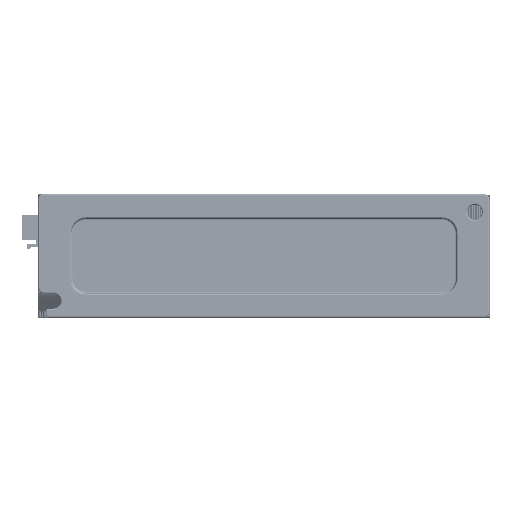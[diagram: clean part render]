
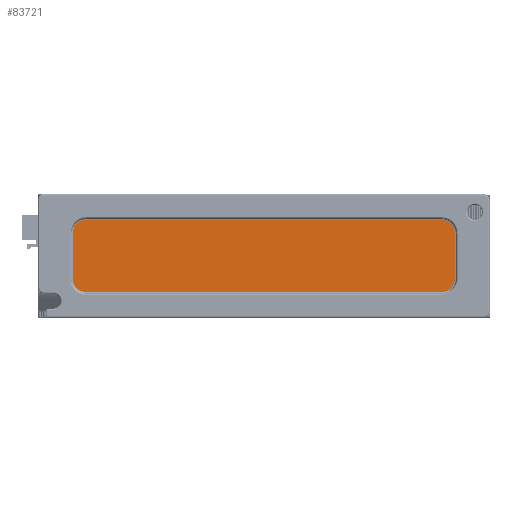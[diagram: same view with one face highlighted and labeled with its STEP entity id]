
A CAD part, top view. The second image highlights one B-rep face of the part: STEP entity #83721.
In plain terms, the highlighted planar face has unit normal (0, 0, 1).
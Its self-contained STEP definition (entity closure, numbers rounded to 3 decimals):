
#64155=CARTESIAN_POINT('',(-59.,43.,-1.5));
#64156=DIRECTION('',(0.,0.,-1.));
#64157=DIRECTION('',(-1.,0.,0.));
#64158=AXIS2_PLACEMENT_3D('',#64155,#64156,#64157);
#64160=DIRECTION('',(1.,0.,0.));
#64161=VECTOR('',#64160,118.);
#64162=CARTESIAN_POINT('',(-59.,47.5,-1.5));
#64163=LINE('',#64162,#64161);
#64164=CARTESIAN_POINT('',(59.,43.,-1.5));
#64165=DIRECTION('',(0.,0.,-1.));
#64166=DIRECTION('',(0.,1.,0.));
#64167=AXIS2_PLACEMENT_3D('',#64164,#64165,#64166);
#64169=DIRECTION('',(0.,-1.,0.));
#64170=VECTOR('',#64169,15.);
#64171=CARTESIAN_POINT('',(63.5,43.,-1.5));
#64172=LINE('',#64171,#64170);
#64173=CARTESIAN_POINT('',(59.,28.,-1.5));
#64174=DIRECTION('',(0.,0.,-1.));
#64175=DIRECTION('',(1.,0.,0.));
#64176=AXIS2_PLACEMENT_3D('',#64173,#64174,#64175);
#64178=DIRECTION('',(-1.,0.,0.));
#64179=VECTOR('',#64178,118.);
#64180=CARTESIAN_POINT('',(59.,23.5,-1.5));
#64181=LINE('',#64180,#64179);
#64182=CARTESIAN_POINT('',(-59.,28.,-1.5));
#64183=DIRECTION('',(0.,0.,-1.));
#64184=DIRECTION('',(0.,-1.,0.));
#64185=AXIS2_PLACEMENT_3D('',#64182,#64183,#64184);
#64187=DIRECTION('',(0.,1.,0.));
#64188=VECTOR('',#64187,15.);
#64189=CARTESIAN_POINT('',(-63.5,28.,-1.5));
#64190=LINE('',#64189,#64188);
#66985=CARTESIAN_POINT('',(-63.5,43.,-1.5));
#66986=CARTESIAN_POINT('',(-59.,47.5,-1.5));
#66987=VERTEX_POINT('',#66985);
#66988=VERTEX_POINT('',#66986);
#66993=CARTESIAN_POINT('',(59.,47.5,-1.5));
#66994=VERTEX_POINT('',#66993);
#66997=CARTESIAN_POINT('',(63.5,43.,-1.5));
#66998=VERTEX_POINT('',#66997);
#67001=CARTESIAN_POINT('',(63.5,28.,-1.5));
#67002=VERTEX_POINT('',#67001);
#67005=CARTESIAN_POINT('',(59.,23.5,-1.5));
#67006=VERTEX_POINT('',#67005);
#67009=CARTESIAN_POINT('',(-59.,23.5,-1.5));
#67010=VERTEX_POINT('',#67009);
#67013=CARTESIAN_POINT('',(-63.5,28.,-1.5));
#67014=VERTEX_POINT('',#67013);
#83699=CARTESIAN_POINT('',(0.,0.,-1.5));
#83700=DIRECTION('',(0.,0.,1.));
#83701=DIRECTION('',(1.,0.,0.));
#83702=AXIS2_PLACEMENT_3D('',#83699,#83700,#83701);
#83703=PLANE('',#83702);
#83705=ORIENTED_EDGE('',*,*,#83704,.T.);
#83707=ORIENTED_EDGE('',*,*,#83706,.T.);
#83709=ORIENTED_EDGE('',*,*,#83708,.T.);
#83710=ORIENTED_EDGE('',*,*,#83689,.T.);
#83712=ORIENTED_EDGE('',*,*,#83711,.T.);
#83714=ORIENTED_EDGE('',*,*,#83713,.T.);
#83716=ORIENTED_EDGE('',*,*,#83715,.T.);
#83718=ORIENTED_EDGE('',*,*,#83717,.T.);
#83719=EDGE_LOOP('',(#83705,#83707,#83709,#83710,#83712,#83714,#83716,#83718));
#83720=FACE_OUTER_BOUND('',#83719,.F.);
#83721=ADVANCED_FACE('',(#83720),#83703,.T.);
#64159=CIRCLE('',#64158,4.5);
#64168=CIRCLE('',#64167,4.5);
#64177=CIRCLE('',#64176,4.5);
#64186=CIRCLE('',#64185,4.5);
#83689=EDGE_CURVE('',#66998,#67002,#64172,.T.);
#83704=EDGE_CURVE('',#66987,#66988,#64159,.T.);
#83706=EDGE_CURVE('',#66988,#66994,#64163,.T.);
#83708=EDGE_CURVE('',#66994,#66998,#64168,.T.);
#83711=EDGE_CURVE('',#67002,#67006,#64177,.T.);
#83713=EDGE_CURVE('',#67006,#67010,#64181,.T.);
#83715=EDGE_CURVE('',#67010,#67014,#64186,.T.);
#83717=EDGE_CURVE('',#67014,#66987,#64190,.T.);
